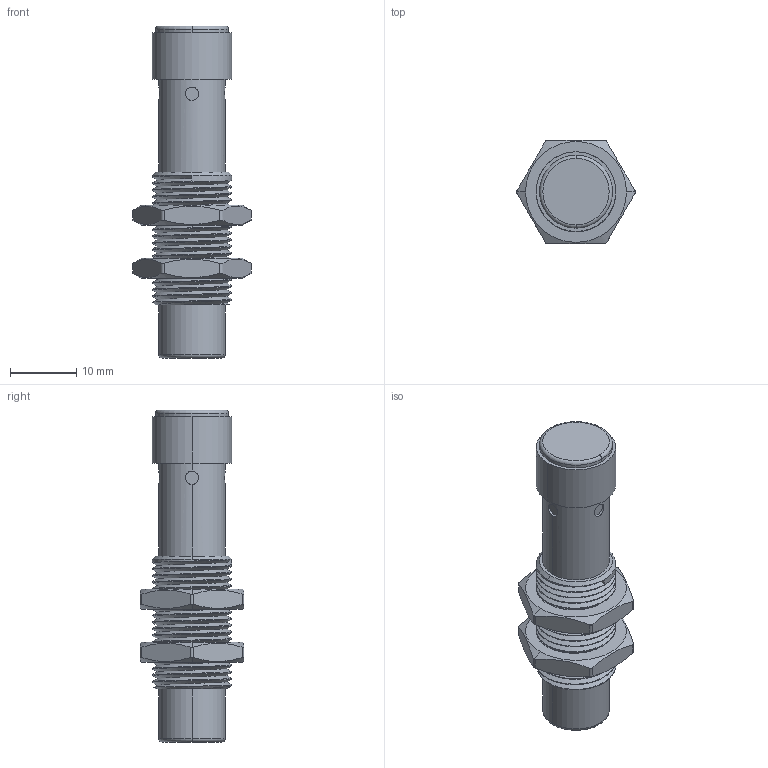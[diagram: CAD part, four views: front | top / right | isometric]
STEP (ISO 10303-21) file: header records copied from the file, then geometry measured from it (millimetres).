
FILE_DESCRIPTION((''),'2;1');
FILE_NAME('M12_FQP_DS1250_ASM','2019-07-16T',('Administrator'),(''),'PRO/ENGINEER BY PARAMETRIC TECHNOLOGY CORPORATION, 2012130','PRO/ENGINEER BY PARAMETRIC TECHNOLOGY CORPORATION, 2012130','');
FILE_SCHEMA(('AUTOMOTIVE_DESIGN { 1 0 10303 214 1 1 1 1 }'));
Length unit declared in the file: millimetre
Products named in the file (3): M12_FQP_DS1250; M12_LM; M12_FQP_DS1250_ASM
Assembly tree (3 placements, depth 2):
  M12_FQP_DS1250_ASM
    M12_FQP_DS1250
    M12_LM  x2
Bounding box: 17.85 x 15.59 x 50 mm (x, y, z)
Volume: 5251.4 mm3; surface area: 3609 mm2
Topology: 3 solids, 3 shells, 138 faces, 362 edges, 236 vertices
Faces by surface type: cylinder 78, plane 29, bspline 16, cone 11, torus 4
Entity records: 9152 total; most frequent: CARTESIAN_POINT 5580, ORIENTED_EDGE 574, DIRECTION 390, PRESENTATION_STYLE_ASSIGNMENT 294, STYLED_ITEM 289, CURVE_STYLE 287, EDGE_CURVE 287, VERTEX_POINT 186
